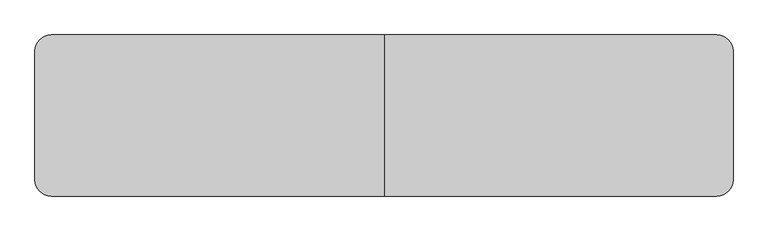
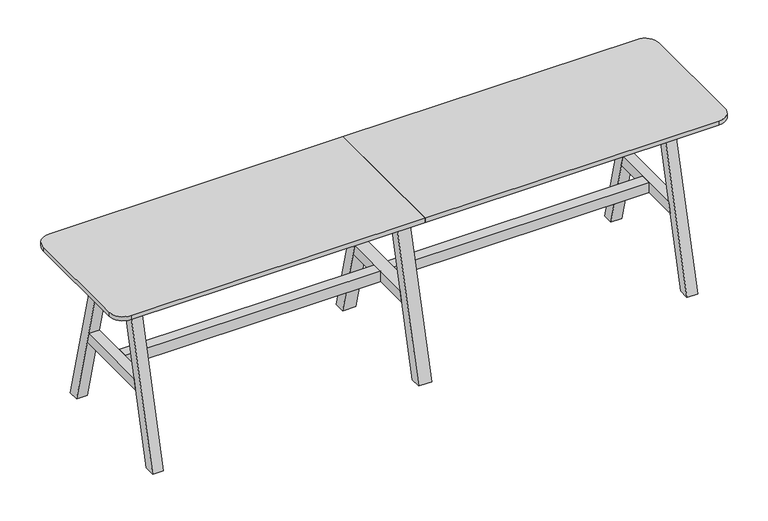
"""IFC4 building model written with IfcOpenShell, lengths in millimetres: furniture geometry, BDG_BossDesign_Tbls_AgentTables6Legs : AGE-DT-6L-2600-600-3D."""

from ifc_helpers import new_model, si_unit, point, frame, frame_2d, origin, place, context, project, spatial, polyline, circle_curve, trimmed, segment, composite_curve, outline, extrude, source, transform, mapped, element, save


def furniture_a8da8c6c(model_context):
    return source(origin(), model_context, "Body", "SweptSolid", [
        extrude(outline(polyline([(300.0, 0.0), (254.9999949, 0.0), (85.5, 660.0), (130.5000051, 660.0), (300.0, 0.0)])), frame((-27.5, 0.0, 0.0), z_axis=(1.0, 0.0, 0.0), x_axis=(0.0, 1.0, 0.0)), (0.0, 0.0, 1.0), 55.0),
        extrude(outline(polyline([(-300.0, 0.0), (-130.5000051, 660.0), (-85.5, 660.0), (-254.9999949, 0.0), (-300.0, 0.0)])), frame((-27.5, 0.0, 0.0), z_axis=(1.0, 0.0, 0.0), x_axis=(0.0, 1.0, 0.0)), (0.0, 0.0, 1.0), 55.0),
        extrude(outline(polyline([(177.9545427, 300.0), (-177.9545427, 300.0), (-166.3977249, 345.0), (166.3977249, 345.0), (177.9545427, 300.0)])), frame((-27.5, 0.0, 0.0), z_axis=(1.0, 0.0, 0.0), x_axis=(0.0, 1.0, 0.0)), (0.0, 0.0, 1.0), 55.0),
        extrude(outline(composite_curve([segment(polyline([(0.0, 300.0), (0.0, -300.0), (-1240.0, -300.0)]), True, "CONTINUOUS"), segment(trimmed(circle_curve(frame_2d((-1240.0, -240.0)), 60.0), [point((-1240.0, -300.0))], [point((-1300.0, -240.0))], False, "CARTESIAN"), True, "CONTINUOUS"), segment(polyline([(-1300.0, -240.0), (-1300.0, 240.0)]), True, "CONTINUOUS"), segment(trimmed(circle_curve(frame_2d((-1240.0, 240.0)), 60.0), [point((-1300.0, 240.0))], [point((-1240.0, 300.0))], False, "CARTESIAN"), True, "CONTINUOUS"), segment(polyline([(-1240.0, 300.0), (0.0, 300.0)]), True, "CONTINUOUS")], self_intersect=False)), frame((0.0, 0.0, 722.0), z_axis=(0.0, 0.0, 1.0), x_axis=(1.0, 0.0, 0.0)), (0.0, 0.0, 1.0), 18.0),
        extrude(outline(polyline([(-166.3977249, 345.0), (166.3977249, 345.0), (177.9545427, 300.0), (-177.9545427, 300.0), (-166.3977249, 345.0)])), frame((1105.0, 0.0, 0.0), z_axis=(1.0, 0.0, 0.0), x_axis=(0.0, 1.0, 0.0)), (0.0, 0.0, 1.0), 45.0),
        extrude(outline(polyline([(300.0, 0.0), (254.9999949, 0.0), (85.5, 660.0), (130.5000051, 660.0), (300.0, 0.0)])), frame((-1150.0, 0.0, 0.0), z_axis=(1.0, 0.0, 0.0), x_axis=(0.0, 1.0, 0.0)), (0.0, 0.0, 1.0), 45.0),
        extrude(outline(polyline([(-300.0, 0.0), (-130.5000051, 660.0), (-85.5, 660.0), (-254.9999949, 0.0), (-300.0, 0.0)])), frame((-1150.0, 0.0, 0.0), z_axis=(1.0, 0.0, 0.0), x_axis=(0.0, 1.0, 0.0)), (0.0, 0.0, 1.0), 45.0),
        extrude(outline(polyline([(-166.3977249, 345.0), (166.3977249, 345.0), (177.9545427, 300.0), (-177.9545427, 300.0), (-166.3977249, 345.0)])), frame((-1150.0, 0.0, 0.0), z_axis=(1.0, 0.0, 0.0), x_axis=(0.0, 1.0, 0.0)), (0.0, 0.0, 1.0), 45.0),
        extrude(outline(polyline([(-126.6006165, 634.973938), (-104.2770691, 722.0), (-79.5, 722.0), (-101.8235474, 634.973938), (-126.6006165, 634.973938)])), frame((-1105.0, 0.0, 0.0), z_axis=(1.0, 0.0, 0.0), x_axis=(0.0, 1.0, 0.0)), (0.0, 0.0, 1.0), 2210.0),
        extrude(outline(polyline([(126.6006165, 634.973938), (101.8235474, 634.973938), (79.5, 722.0), (104.2770691, 722.0), (126.6006165, 634.973938)])), frame((-1105.0, 0.0, 0.0), z_axis=(1.0, 0.0, 0.0), x_axis=(0.0, 1.0, 0.0)), (0.0, 0.0, 1.0), 2210.0),
        extrude(outline(polyline([(299.7999878, 0.0), (254.7999827, 0.0), (85.5, 660.0), (130.5000051, 660.0), (299.7999878, 0.0)])), frame((1105.0, 0.0, 0.0), z_axis=(1.0, 0.0, 0.0), x_axis=(0.0, 1.0, 0.0)), (0.0, 0.0, 1.0), 45.0),
        extrude(outline(polyline([(-299.7999878, 0.0), (-130.5000051, 660.0), (-85.5, 660.0), (-254.7999827, 0.0), (-299.7999878, 0.0)])), frame((1105.0, 0.0, 0.0), z_axis=(1.0, 0.0, 0.0), x_axis=(0.0, 1.0, 0.0)), (0.0, 0.0, 1.0), 45.0),
        extrude(outline(polyline([(-27.5, 22.5000305), (-27.5, -22.5000305), (-1105.0, -22.5000305), (-1105.0, 22.5000305), (-27.5, 22.5000305)])), frame((0.0, 0.0, 300.0), z_axis=(0.0, 0.0, 1.0), x_axis=(1.0, 0.0, 0.0)), (0.0, 0.0, 1.0), 45.0),
        extrude(outline(polyline([(27.5, -22.5000305), (27.5, 22.5000305), (1105.0, 22.5000305), (1105.0, -22.5000305), (27.5, -22.5000305)])), frame((0.0, 0.0, 300.0), z_axis=(0.0, 0.0, 1.0), x_axis=(1.0, 0.0, 0.0)), (0.0, 0.0, 1.0), 45.0),
        extrude(outline(composite_curve([segment(trimmed(circle_curve(frame_2d((1240.0, 240.0)), 60.0), [point((1240.0, 300.0))], [point((1300.0, 240.0))], False, "CARTESIAN"), True, "CONTINUOUS"), segment(polyline([(1300.0, 240.0), (1300.0, -240.0)]), True, "CONTINUOUS"), segment(trimmed(circle_curve(frame_2d((1240.0, -240.0)), 60.0), [point((1300.0, -240.0))], [point((1240.0, -300.0))], False, "CARTESIAN"), True, "CONTINUOUS"), segment(polyline([(1240.0, -300.0), (0.0, -300.0), (0.0, 300.0), (1240.0, 300.0)]), True, "CONTINUOUS")], self_intersect=False)), frame((0.0, 0.0, 722.0), z_axis=(0.0, 0.0, 1.0), x_axis=(1.0, 0.0, 0.0)), (0.0, 0.0, 1.0), 18.0),
    ])


if __name__ == "__main__":
    model = new_model("IFC4")
    model_context = context("Model", 3, world=origin())
    ifc_project = project(units=[si_unit("LENGTHUNIT", "METRE", prefix="MILLI")], contexts=[model_context])
    site = spatial("IfcSite", under=ifc_project)
    building = spatial("IfcBuilding", under=site)
    placement = place(None, origin())
    furniture_shape = furniture_a8da8c6c(model_context)
    element("IfcFurniture", 1, ObjectType="BDG_BossDesign_Tbls_AgentTables6Legs : AGE-DT-6L-2600-600-3D", at=placement, inside=building, context=model_context, shape_type="MappedRepresentation", body=[
        mapped(furniture_shape, transform((0.0, 0.0, 0.0), x_axis=(1.0, 0.0, 0.0), y_axis=(0.0, 1.0, 0.0), z_axis=(0.0, 0.0, 1.0))),
    ])
    save(model, "model.ifc")
